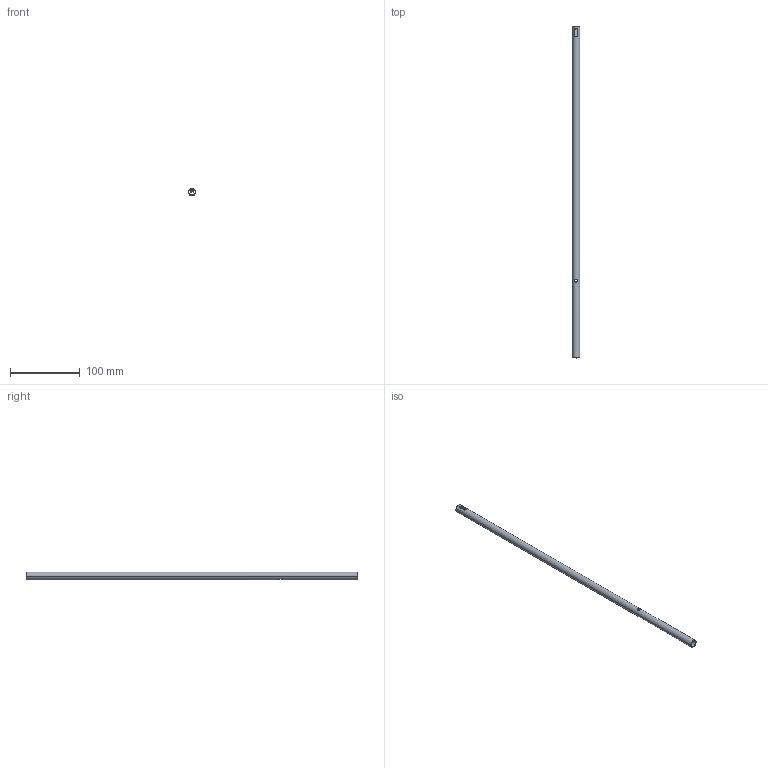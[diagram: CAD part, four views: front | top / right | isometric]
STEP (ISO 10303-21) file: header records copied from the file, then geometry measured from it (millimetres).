
FILE_DESCRIPTION (( 'STEP AP214' ), '1' );
FILE_NAME ('Relingsrohr-Frontstütze_P710701300_500.step', '2010-09-07T12:59:30', ( 'grass' ), ( '' ), 'SwSTEP 2.0', 'SolidWorks 2010', '' );
FILE_SCHEMA (( 'AUTOMOTIVE_DESIGN' ));
Length unit declared in the file: millimetre
Products named in the file (1): Relingsrohr-Frontstütze_P710701300_500
Bounding box: 11 x 476 x 11 mm (x, y, z)
Volume: 14891.3 mm3; surface area: 29932 mm2
Topology: 1 solids, 1 shells, 18 faces, 46 edges, 30 vertices
Faces by surface type: plane 10, cylinder 8
Entity records: 850 total; most frequent: CARTESIAN_POINT 351, ORIENTED_EDGE 92, DIRECTION 84, EDGE_CURVE 46, VERTEX_POINT 30, AXIS2_PLACEMENT_3D 29, LINE 26, VECTOR 26
